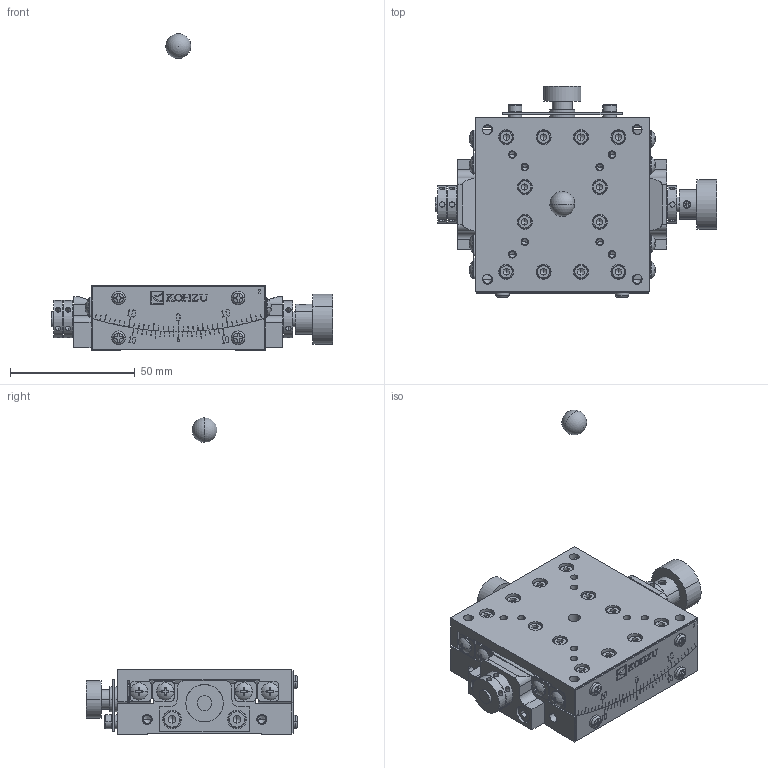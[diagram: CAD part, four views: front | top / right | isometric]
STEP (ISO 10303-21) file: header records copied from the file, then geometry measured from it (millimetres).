
FILE_DESCRIPTION (( 'STEP AP203' ), '1' );
FILE_NAME ('SH07A-RM.STEP', '2015-05-12T03:52:21', ( '' ), ( '' ), 'SwSTEP 2.0', 'SolidWorks 2011', '' );
FILE_SCHEMA (( 'CONFIG_CONTROL_DESIGN' ));
Products named in the file (4): SH07A-RM; rotation-center-20; base-27; table-19
Assembly tree (3 placements, depth 2):
  SH07A-RM
    table-19
    base-27
    rotation-center-20
Bounding box: 113 x 84.96 x 127 mm (x, y, z)
Volume: 126402.8 mm3; surface area: 52404.7 mm2
Topology: 3 solids, 53 shells, 2408 faces, 5762 edges, 3502 vertices
Faces by surface type: plane 1224, cylinder 745, cone 351, torus 56, sphere 26, bspline 6
Entity records: 73444 total; most frequent: CARTESIAN_POINT 16865, DIRECTION 12176, ORIENTED_EDGE 11254, EDGE_CURVE 5627, AXIS2_PLACEMENT_3D 4470, VERTEX_POINT 3499, LINE 3236, VECTOR 3236
